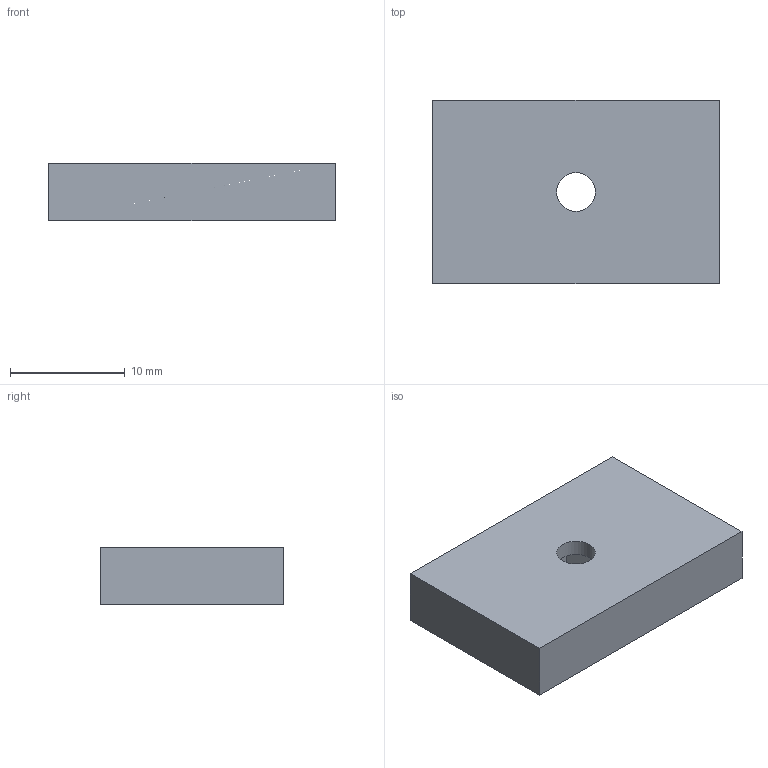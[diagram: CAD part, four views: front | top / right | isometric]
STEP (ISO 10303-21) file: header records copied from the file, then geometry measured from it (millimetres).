
FILE_DESCRIPTION(('FreeCAD Model'),'2;1');
FILE_NAME('Open CASCADE Shape Model','2026-11-20T08:25:39',('FreeCAD'),( 'FreeCAD'),'Open CASCADE STEP processor 7.8','FreeCAD','Unknown');
FILE_SCHEMA(('AUTOMOTIVE_DESIGN { 1 0 10303 214 1 1 1 1 }'));
Length unit declared in the file: millimetre
Products named in the file (1): Open CASCADE STEP translator 7.8 94
Bounding box: 25 x 16 x 5 mm (x, y, z)
Volume: 1913.3 mm3; surface area: 1297.6 mm2
Topology: 1 solids, 1 shells, 16 faces, 36 edges, 24 vertices
Faces by surface type: plane 14, cylinder 2
Full cylindrical faces by diameter (mm): 3.4 x2
Entity records: 458 total; most frequent: CARTESIAN_POINT 77, DIRECTION 74, ORIENTED_EDGE 72, EDGE_CURVE 36, LINE 32, VECTOR 32, VERTEX_POINT 24, AXIS2_PLACEMENT_3D 21
